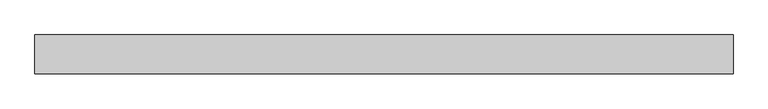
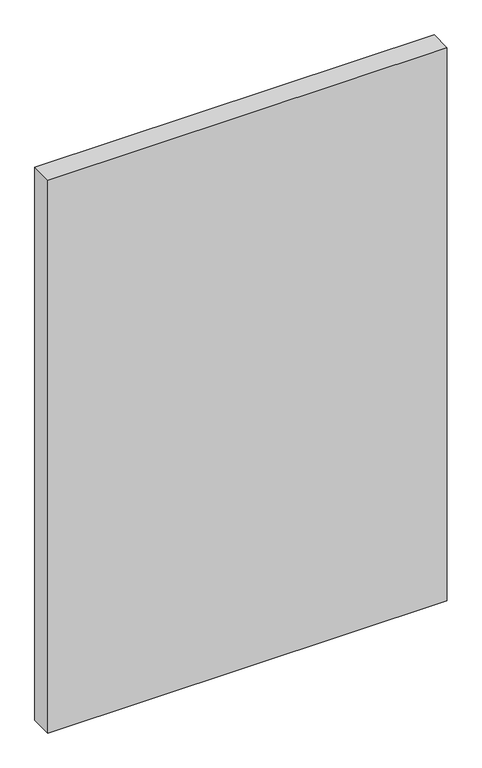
"""IFC4 building model written with IfcOpenShell, lengths in millimetres: plate geometry, システム パネルなし : なし."""

from ifc_helpers import new_model, si_unit, origin, origin_with_axes, place, context, project, spatial, polyline, outline, extrude, source, transform, mapped, element, save


def plate_999be328(model_context):
    return source(origin(), model_context, "Body", "SweptSolid", [
        extrude(outline(polyline([(900.0000002, -50.0), (-900.0000002, -50.0), (-900.0000002, 50.0), (900.0000002, 50.0), (900.0000002, -50.0)])), origin_with_axes(), (0.0, 0.0, 1.0), 2633.0),
    ])


if __name__ == "__main__":
    model = new_model("IFC4")
    model_context = context("Model", 3, world=origin())
    ifc_project = project(units=[si_unit("LENGTHUNIT", "METRE", prefix="MILLI")], contexts=[model_context])
    site = spatial("IfcSite", under=ifc_project)
    building = spatial("IfcBuilding", under=site)
    placement = place(None, origin())
    plate_shape = plate_999be328(model_context)
    element("IfcPlate", 1, ObjectType="システム パネルなし : なし", at=placement, inside=building, context=model_context, shape_type="MappedRepresentation", body=[
        mapped(plate_shape, transform((0.0, 0.0, 0.0), x_axis=(1.0, 0.0, 0.0), y_axis=(0.0, 1.0, 0.0), z_axis=(0.0, 0.0, 1.0))),
    ])
    save(model, "model.ifc")
